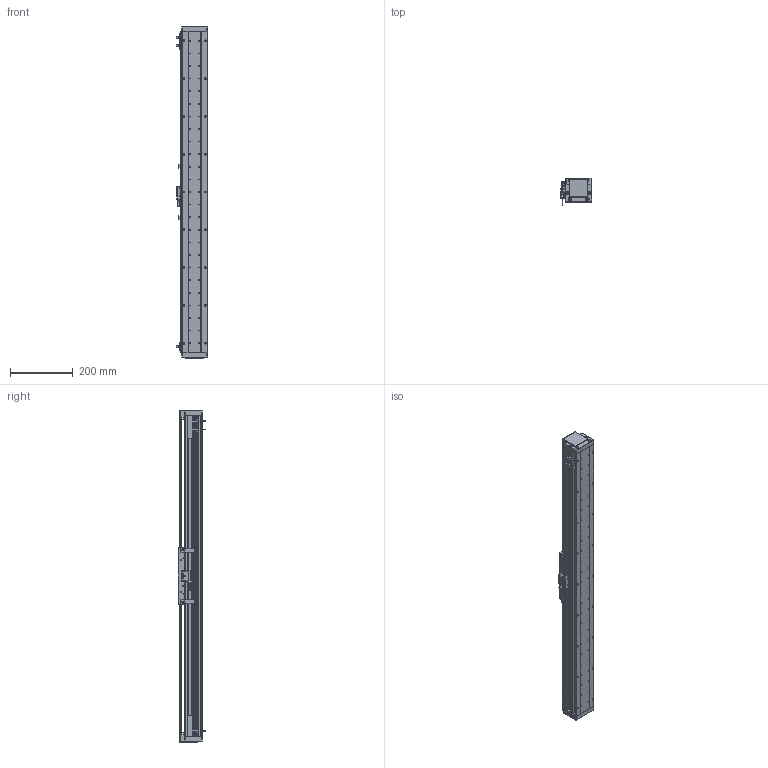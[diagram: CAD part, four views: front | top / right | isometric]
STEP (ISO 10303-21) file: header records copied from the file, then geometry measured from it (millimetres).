
FILE_DESCRIPTION (( 'STEP AP203' ), '1' );
FILE_NAME ('DA-A82-B2-T800-C010-0.2 眻盄萇儂.STEP', '2025-08-13T03:07:00', ( '' ), ( '' ), 'SwSTEP 2.0', 'SolidWorks 2019', '' );
FILE_SCHEMA (( 'CONFIG_CONTROL_DESIGN' ));
Length unit declared in the file: millimetre
Products named in the file (21): 复件 DA95-GT-T-00 底座钢轨^IU-AU82-L 底座导轨; 葩璃 DA82-B2-DP-00 結え^AU82-M 幗紩賑怢; 葩璃 DA60-DMT-DTJ-00 黍杅芛盓殤^DA-A82-B2-T-C010-0.2; ｸｴｼ BKM02-W040-C1-TP-DA-3.0 ﾖｱﾏﾟｵ扈巐ｯﾗﾓ^DA-A82-B2-T-C010-0.2; DA-A60-GYP-DMT-00 光电感应片^DA-A82-B2-T-C010-0.2(默认); AU82-M-00 珨极趙賑雄怢啣; IU-AU82-L-00 菁釱(L1020); 葩璃 DA82-T-002-00 裔啣^DA-A82-B2-T-C010-0.2; 葩璃 XD-U-02  棠掑喜^DA-A82-B2-T-C010-0.2; 复件 DA95-B2-GT-00 滑块钢轨^AU82-M-00 一体化滑动台板; 葩璃 BKM01-W040-TRL^DA-A82-B2-T-C010-0.2; DA-A82-B2-T800-C010-0.2 眻盄萇儂; AU82-HT-M-00 賑雄怢啣; 葩璃 PM-T45^DA-A82-B2-T-C010-0.2; 复件 DA82-DG-H-N-00 端盖^DA-A82-B2-T-C010-0.2(默认_按加工_); 复件 复件 DA82-XJ-00 缓冲橡胶^DA-A82-B2-T-C010-0.2; 葩璃 DMT-010 1米m 0.2M^DA-A82-B2-T-C010-0.2; 葩璃 鞠褒情蹟譫 M3^DA-A82-B2-T-C010-0.2; AU82-M 幗紩賑怢; 复件 纯铜油杯 6x6mm^AU82-M 滚珠滑台; IU-AU82-L 菁釱絳寢
Assembly tree (36 placements, depth 4):
  DA-A82-B2-T800-C010-0.2 眻盄萇儂
    IU-AU82-L 菁釱絳寢
      IU-AU82-L-00 菁釱(L1020)
      复件 DA95-GT-T-00 底座钢轨^IU-AU82-L 底座导轨  x2
    AU82-M 幗紩賑怢
      AU82-M-00 珨极趙賑雄怢啣
        AU82-HT-M-00 賑雄怢啣
        复件 DA95-B2-GT-00 滑块钢轨^AU82-M-00 一体化滑动台板  x4
      葩璃 DA82-B2-DP-00 結え^AU82-M 幗紩賑怢  x2
      复件 纯铜油杯 6x6mm^AU82-M 滚珠滑台  x2
    葩璃 DA60-DMT-DTJ-00 黍杅芛盓殤^DA-A82-B2-T-C010-0.2
    葩璃 DMT-010 1米m 0.2M^DA-A82-B2-T-C010-0.2
    DA-A60-GYP-DMT-00 光电感应片^DA-A82-B2-T-C010-0.2(默认)  x2
    ｸｴｼ BKM02-W040-C1-TP-DA-3.0 ﾖｱﾏﾟｵ扈巐ｯﾗﾓ^DA-A82-B2-T-C010-0.2
    复件 复件 DA82-XJ-00 缓冲橡胶^DA-A82-B2-T-C010-0.2  x2
    复件 DA82-DG-H-N-00 端盖^DA-A82-B2-T-C010-0.2(默认_按加工_)  x2
    葩璃 DA82-T-002-00 裔啣^DA-A82-B2-T-C010-0.2
    葩璃 BKM01-W040-TRL^DA-A82-B2-T-C010-0.2
    葩璃 PM-T45^DA-A82-B2-T-C010-0.2  x3
    葩璃 XD-U-02  棠掑喜^DA-A82-B2-T-C010-0.2
    葩璃 鞠褒情蹟譫 M3^DA-A82-B2-T-C010-0.2  x6
Bounding box: 98.95 x 87.2 x 1054 mm (x, y, z)
Volume: 3390052 mm3; surface area: 975634.2 mm2
Topology: 40 solids, 64 shells, 2109 faces, 5542 edges, 3460 vertices
Faces by surface type: cylinder 987, plane 814, cone 252, torus 38, bspline 12, sphere 6
Entity records: 56923 total; most frequent: CARTESIAN_POINT 12733, DIRECTION 8926, ORIENTED_EDGE 8406, EDGE_CURVE 4203, AXIS2_PLACEMENT_3D 3386, VERTEX_POINT 2727, VECTOR 2154, LINE 2154
